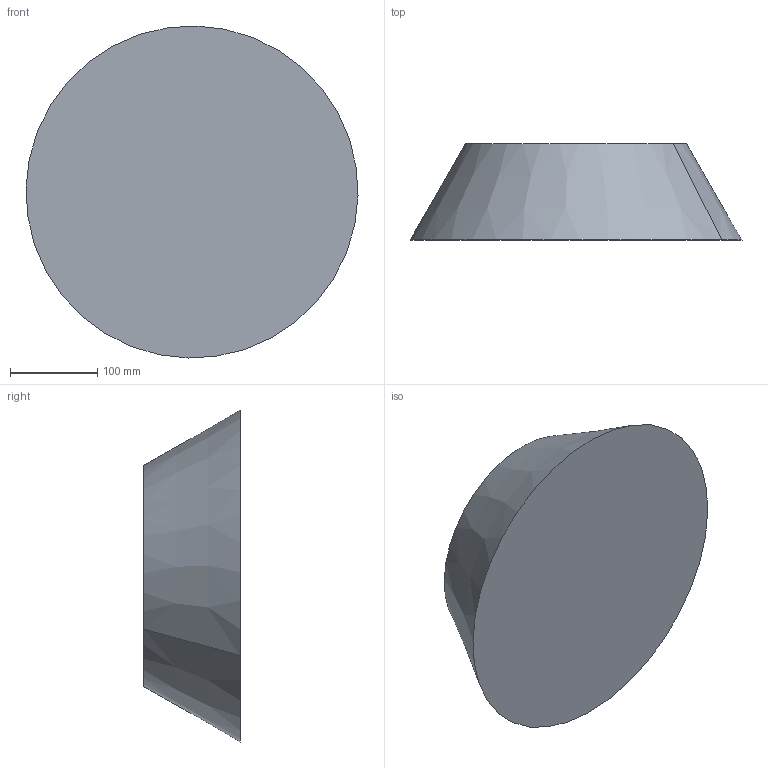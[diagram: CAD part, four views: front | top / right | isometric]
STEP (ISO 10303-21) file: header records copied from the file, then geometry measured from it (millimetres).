
FILE_DESCRIPTION(('CATIA V5 STEP Exchange'),'2;1');
FILE_NAME('C:\_Andres\UNIVERSIDAD\IQS\ASIGNATURAS\DAO\EXF\EXF-16172c\2inicio\Duch_Leira_Ej09_v10.stp','2017-03-05T22:13:11+00:00',('none'),('none'),'CATIA Version 5-6 Release 2014 SP1 HF18','CATIA V5 STEP AP203','none');
FILE_SCHEMA(('CONFIG_CONTROL_DESIGN'));
Length unit declared in the file: millimetre
Products named in the file (1): Duch_Leira_Ej09_v10
Bounding box: 379.89 x 110 x 379.89 mm (x, y, z)
Volume: 8762092.4 mm3; surface area: 292167.8 mm2
Topology: 1 solids, 2 shells, 8 faces, 12 edges, 8 vertices
Faces by surface type: plane 4, cone 2, cylinder 2
Entity records: 205 total; most frequent: CARTESIAN_POINT 27, DIRECTION 24, ORIENTED_EDGE 24, AXIS2_PLACEMENT_3D 15, EDGE_CURVE 12, ADVANCED_FACE 8, CIRCLE 8, EDGE_LOOP 8
